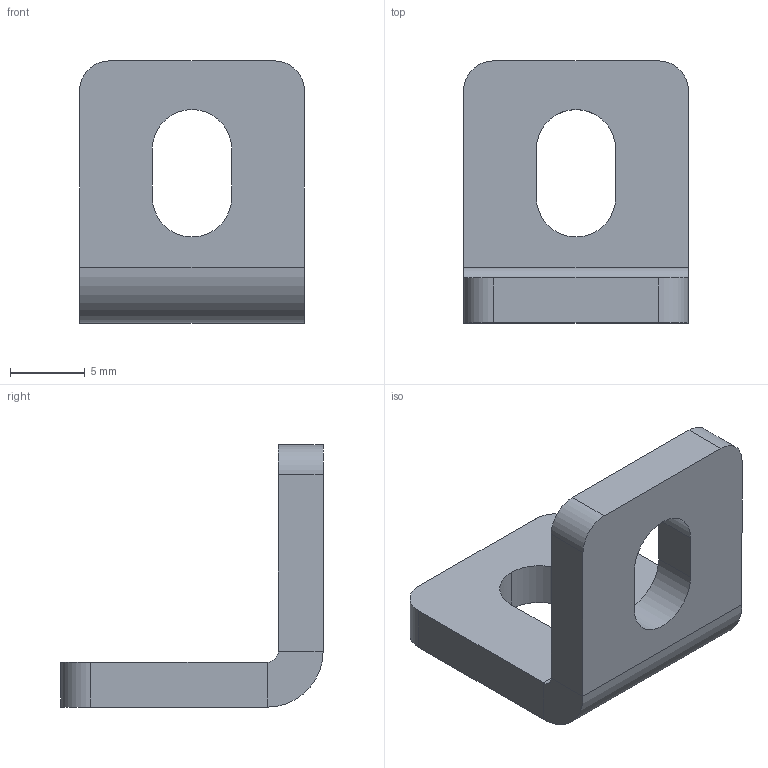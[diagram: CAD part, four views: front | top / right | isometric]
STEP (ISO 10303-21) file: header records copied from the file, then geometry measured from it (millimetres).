
FILE_DESCRIPTION (( 'STEP AP203' ), '1' );
FILE_NAME ('DSB2015-5.STEP', '2020-10-12T00:57:47', ( '' ), ( '' ), 'SwSTEP 2.0', 'SolidWorks 2017', '' );
FILE_SCHEMA (( 'CONFIG_CONTROL_DESIGN' ));
Length unit declared in the file: millimetre
Products named in the file (1): DSB2015-5
Bounding box: 15 x 17.5 x 17.5 mm (x, y, z)
Volume: 1152.4 mm3; surface area: 1172.5 mm2
Topology: 1 solids, 1 shells, 28 faces, 70 edges, 44 vertices
Faces by surface type: plane 16, cylinder 12
Entity records: 919 total; most frequent: DIRECTION 152, CARTESIAN_POINT 143, ORIENTED_EDGE 140, EDGE_CURVE 70, AXIS2_PLACEMENT_3D 53, VECTOR 46, LINE 46, VERTEX_POINT 44
